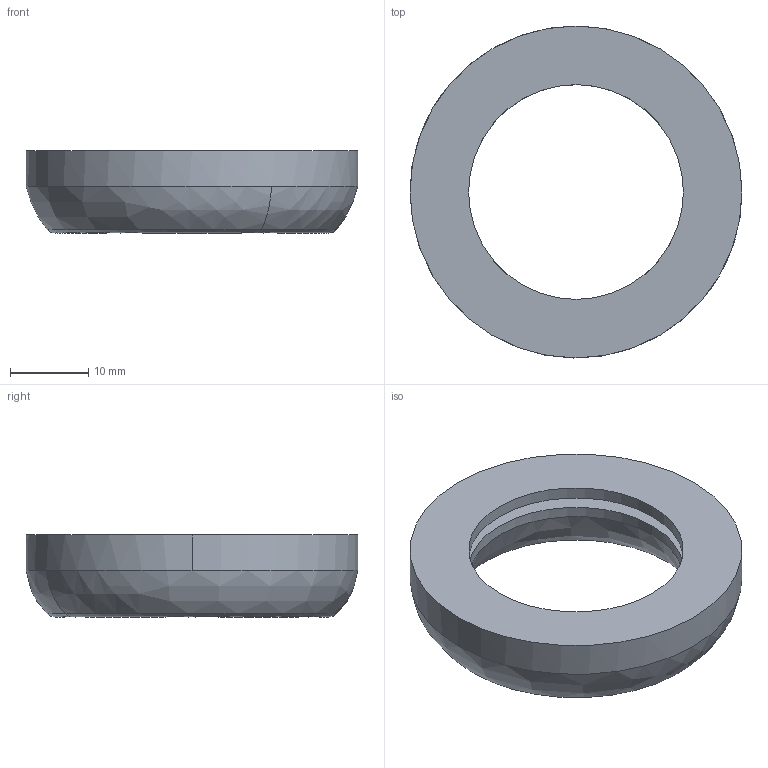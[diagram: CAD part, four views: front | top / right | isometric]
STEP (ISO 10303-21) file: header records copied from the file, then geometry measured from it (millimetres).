
FILE_DESCRIPTION (( 'STEP AP214' ), '1' );
FILE_NAME ('10FF.042.001.15R.STEP', '2026-03-25T19:04:00', ( '' ), ( '' ), 'SwSTEP 2.0', 'SolidWorks 2025', '' );
FILE_SCHEMA (( 'AUTOMOTIVE_DESIGN' ));
Length unit declared in the file: millimetre
Products named in the file (1): 10FF.042.001.15R
Bounding box: 42.5 x 42.5 x 10.5 mm (x, y, z)
Volume: 6279.3 mm3; surface area: 4798.9 mm2
Topology: 1 solids, 1 shells, 15 faces, 36 edges, 22 vertices
Faces by surface type: bspline 6, cylinder 5, cone 3, plane 1
Full cylindrical faces by diameter (mm): 27.5 x1
Entity records: 503 total; most frequent: CARTESIAN_POINT 156, DIRECTION 76, ORIENTED_EDGE 60, AXIS2_PLACEMENT_3D 36, EDGE_CURVE 30, CIRCLE 26, EDGE_LOOP 20, VERTEX_POINT 20
